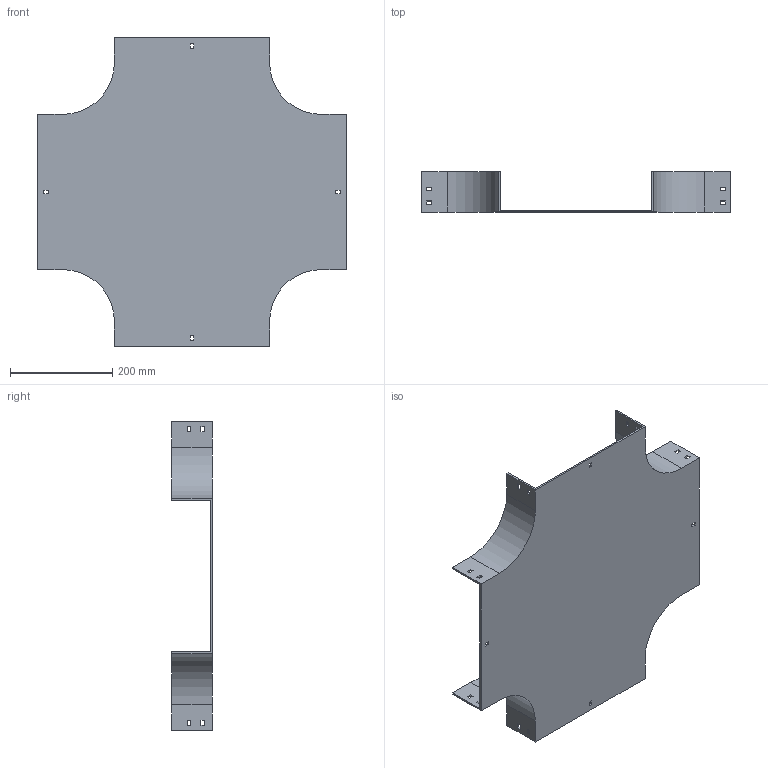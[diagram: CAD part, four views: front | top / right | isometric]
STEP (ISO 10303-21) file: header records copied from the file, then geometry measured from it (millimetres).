
FILE_DESCRIPTION (( 'STEP AP214' ), '1' );
FILE_NAME ('17B1C300.step', '2025-02-21T09:58:18', ( '' ), ( '' ), 'SwSTEP 2.0', 'SolidWorks 2023', '' );
FILE_SCHEMA (( 'AUTOMOTIVE_DESIGN' ));
Length unit declared in the file: millimetre
Products named in the file (1): 17B1C300
Bounding box: 604 x 79 x 604 mm (x, y, z)
Volume: 1261800 mm3; surface area: 733335.7 mm2
Topology: 1 solids, 1 shells, 114 faces, 336 edges, 224 vertices
Faces by surface type: plane 106, cylinder 8
Entity records: 3839 total; most frequent: CARTESIAN_POINT 675, ORIENTED_EDGE 672, DIRECTION 582, EDGE_CURVE 336, VECTOR 320, LINE 320, VERTEX_POINT 224, EDGE_LOOP 154
